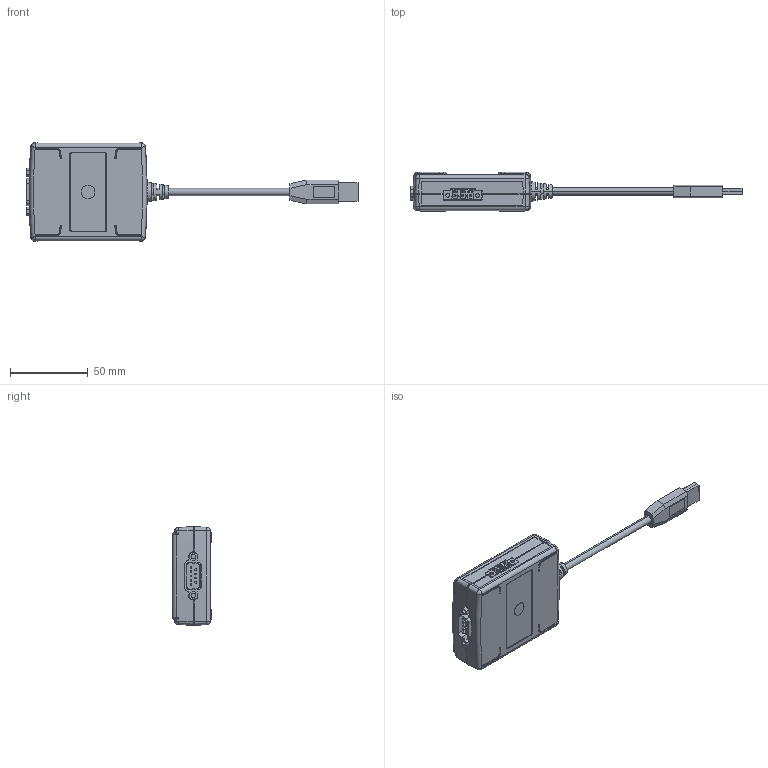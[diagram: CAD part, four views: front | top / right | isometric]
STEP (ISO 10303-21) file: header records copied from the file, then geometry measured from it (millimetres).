
FILE_DESCRIPTION((''),'2;1');
FILE_NAME('CU_ASSY_USB-CAN-SYNC','2009-09-16T',('jpfaff'),(''),'PRO/ENGINEER BY PARAMETRIC TECHNOLOGY CORPORATION, 2006080','PRO/ENGINEER BY PARAMETRIC TECHNOLOGY CORPORATION, 2006080','');
FILE_SCHEMA(('CONFIG_CONTROL_DESIGN'));
Length unit declared in the file: inch
Products named in the file (1): CU_ASSY_USB-CAN-SYNC
Bounding box: 214.15 x 25.3 x 63.5 mm (x, y, z)
Volume: 40364.1 mm3; surface area: 38489.7 mm2
Topology: 3 solids, 3 shells, 2113 faces, 4805 edges, 2907 vertices
Faces by surface type: plane 714, torus 604, cone 340, cylinder 281, bspline 136, sphere 38
Entity records: 66161 total; most frequent: CARTESIAN_POINT 18165, DIRECTION 10745, ORIENTED_EDGE 9610, EDGE_CURVE 4805, AXIS2_PLACEMENT_3D 4447, VERTEX_POINT 2907, CIRCLE 2470, EDGE_LOOP 2342
